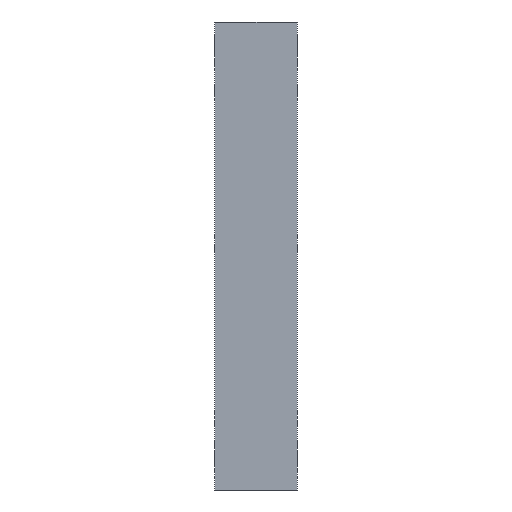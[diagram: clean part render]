
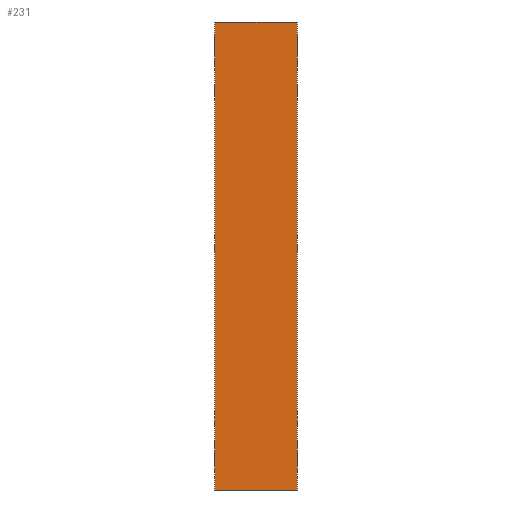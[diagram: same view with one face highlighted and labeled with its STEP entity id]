
A CAD part, left-side view. The second image highlights one B-rep face of the part: STEP entity #231.
In plain terms, the highlighted planar face has unit normal (-1, 0, 0).
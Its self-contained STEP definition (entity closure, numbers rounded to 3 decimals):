
#15 = CARTESIAN_POINT ( 'NONE',  ( -248., 96., 273. ) ) ;
#31 = EDGE_CURVE ( 'NONE', #497, #103, #303, .T. ) ;
#62 = VECTOR ( 'NONE', #768, 1000. ) ;
#84 = LINE ( 'NONE', #774, #62 ) ;
#102 = PLANE ( 'NONE',  #932 ) ;
#103 = VERTEX_POINT ( 'NONE', #893 ) ;
#109 = VECTOR ( 'NONE', #807, 1000. ) ;
#145 = CARTESIAN_POINT ( 'NONE',  ( -248., 0., 273. ) ) ;
#158 = EDGE_LOOP ( 'NONE', ( #599, #639, #946, #784 ) ) ;
#171 = CARTESIAN_POINT ( 'NONE',  ( -248., 96., -273. ) ) ;
#230 = VERTEX_POINT ( 'NONE', #171 ) ;
#231 = ADVANCED_FACE ( 'NONE', ( #526 ), #102, .F. ) ;
#283 = VECTOR ( 'NONE', #721, 1000. ) ;
#303 = LINE ( 'NONE', #145, #109 ) ;
#334 = DIRECTION ( 'NONE',  ( 1., 0., 0. ) ) ;
#343 = LINE ( 'NONE', #500, #283 ) ;
#399 = DIRECTION ( 'NONE',  ( 0., 0., -1. ) ) ;
#441 = LINE ( 'NONE', #15, #781 ) ;
#469 = EDGE_CURVE ( 'NONE', #665, #103, #343, .T. ) ;
#497 = VERTEX_POINT ( 'NONE', #564 ) ;
#500 = CARTESIAN_POINT ( 'NONE',  ( -248., 96., 273. ) ) ;
#526 = FACE_OUTER_BOUND ( 'NONE', #158, .T. ) ;
#564 = CARTESIAN_POINT ( 'NONE',  ( -248., 0., -273. ) ) ;
#599 = ORIENTED_EDGE ( 'NONE', *, *, #31, .T. ) ;
#621 = CARTESIAN_POINT ( 'NONE',  ( -248., 96., 273. ) ) ;
#639 = ORIENTED_EDGE ( 'NONE', *, *, #469, .F. ) ;
#665 = VERTEX_POINT ( 'NONE', #883 ) ;
#715 = EDGE_CURVE ( 'NONE', #230, #665, #441, .T. ) ;
#721 = DIRECTION ( 'NONE',  ( 0., -1., 0. ) ) ;
#751 = DIRECTION ( 'NONE',  ( 0., 0., 1. ) ) ;
#768 = DIRECTION ( 'NONE',  ( 0., -1., 0. ) ) ;
#774 = CARTESIAN_POINT ( 'NONE',  ( -248., 96., -273. ) ) ;
#781 = VECTOR ( 'NONE', #751, 1000. ) ;
#784 = ORIENTED_EDGE ( 'NONE', *, *, #901, .T. ) ;
#807 = DIRECTION ( 'NONE',  ( 0., 0., 1. ) ) ;
#883 = CARTESIAN_POINT ( 'NONE',  ( -248., 96., 273. ) ) ;
#893 = CARTESIAN_POINT ( 'NONE',  ( -248., 0., 273. ) ) ;
#901 = EDGE_CURVE ( 'NONE', #230, #497, #84, .T. ) ;
#932 = AXIS2_PLACEMENT_3D ( 'NONE', #621, #334, #399 ) ;
#946 = ORIENTED_EDGE ( 'NONE', *, *, #715, .F. ) ;
